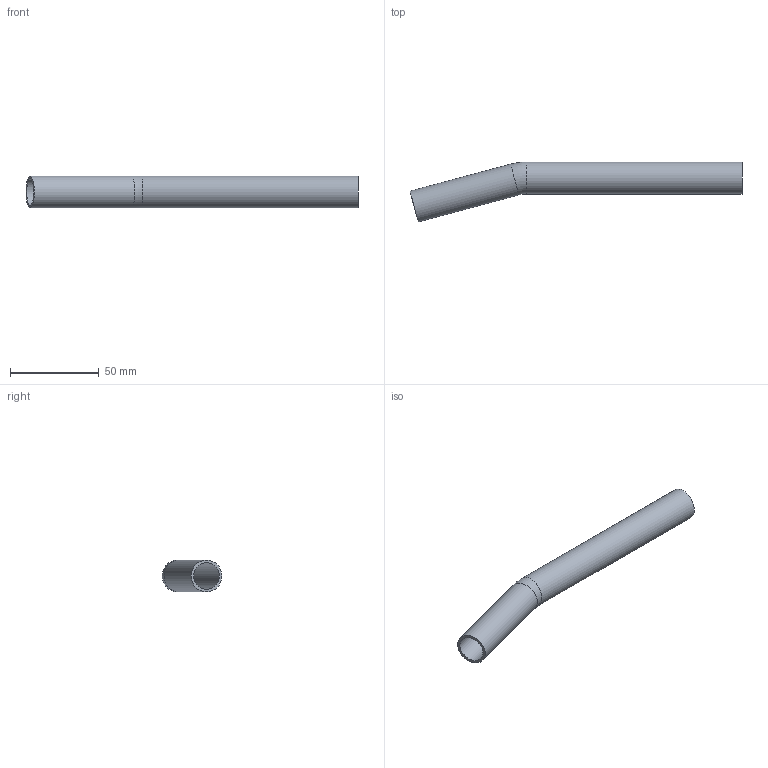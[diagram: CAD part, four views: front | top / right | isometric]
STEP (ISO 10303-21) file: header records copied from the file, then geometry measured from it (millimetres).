
FILE_DESCRIPTION((''),'2;1');
FILE_NAME('G:\Technics\CAD\Bauteile\018\6904318(1).stp','2008-01-31T09:28:58',('herberg'),(''),'Autodesk Inventor 2008','Autodesk Inventor 2008','');
FILE_SCHEMA(('AUTOMOTIVE_DESIGN { 1 0 10303 214 1 1 1 1 }'));
Length unit declared in the file: millimetre
Products named in the file (1): 6904318(1)
Bounding box: 187.22 x 33.74 x 18 mm (x, y, z)
Volume: 14537.1 mm3; surface area: 19538.4 mm2
Topology: 1 solids, 1 shells, 8 faces, 14 edges, 8 vertices
Faces by surface type: cylinder 4, torus 2, plane 2
Full cylindrical faces by diameter (mm): 15 x2, 18 x2
Entity records: 194 total; most frequent: DIRECTION 34, CARTESIAN_POINT 25, AXIS2_PLACEMENT_3D 17, ORIENTED_EDGE 16, EDGE_LOOP 16, VERTEX_POINT 8, CIRCLE 8, EDGE_CURVE 8
